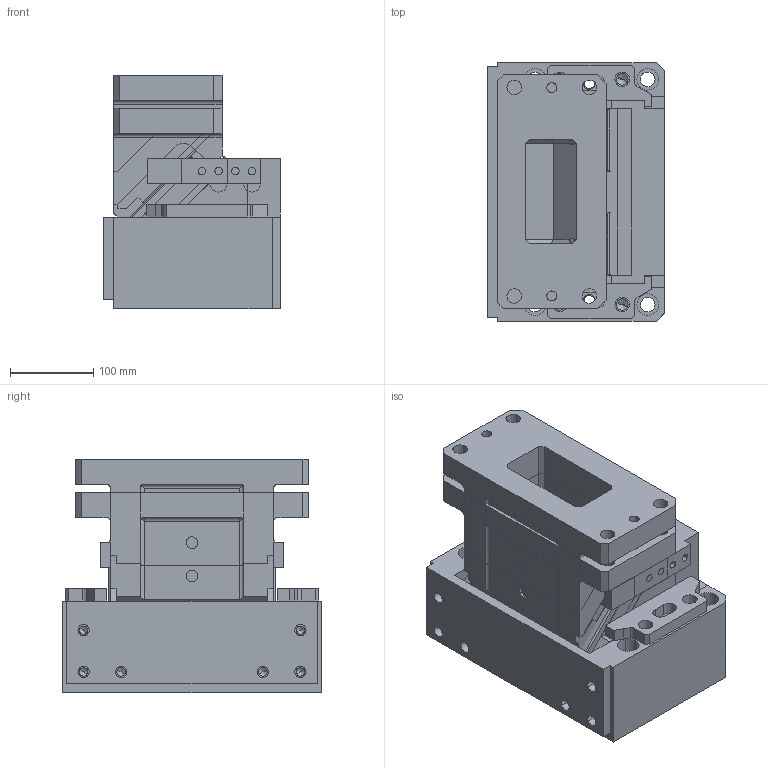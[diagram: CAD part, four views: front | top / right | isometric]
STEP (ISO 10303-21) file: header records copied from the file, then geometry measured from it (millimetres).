
FILE_DESCRIPTION(('CATIA V5 STEP','CAx-IF Rec.Pracs.--- Model Styling and Organization---1.4--- 2014-01-23','CAx-IF Rec.Pracs.---3D Tessellated Data Validation Properties---0.5---2014-09-14'),'2;1');
FILE_NAME('H:\_COMPRESS_2\2016.14.00.200.040.1.2__CM.stp','2020-11-18T12:54:20+00:00',('${USER}'),('AUDI AG, ${GROUP}'),'CATIA Version 5-6 Release 2018 SP3 HF27','CATIA V5 STEP AP242','none');
FILE_SCHEMA(('AP242_MANAGED_MODEL_BASED_3D_ENGINEERING_MIM_LF {1 0 10303 442 1 1 4}'));
Length unit declared in the file: millimetre
Products named in the file (1): 2016.14.00.200.040.1.2__CM
Bounding box: 212 x 310 x 280 mm (x, y, z)
Volume: 14747312.8 mm3; surface area: 1143193.1 mm2
Topology: 4 solids, 8 shells, 910 faces, 2302 edges, 1459 vertices
Faces by surface type: plane 471, cylinder 349, cone 52, torus 32, sphere 4, bspline 2
Entity records: 26334 total; most frequent: CARTESIAN_POINT 5900, ORIENTED_EDGE 4518, DIRECTION 3430, EDGE_CURVE 2259, VERTEX_POINT 1459, VECTOR 1419, LINE 1419, AXIS2_PLACEMENT_3D 1341
